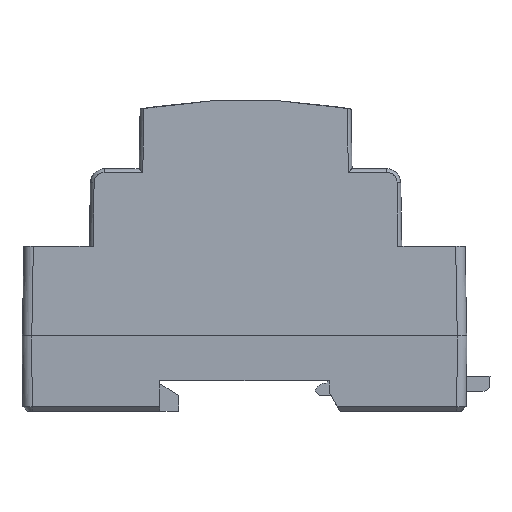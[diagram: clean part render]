
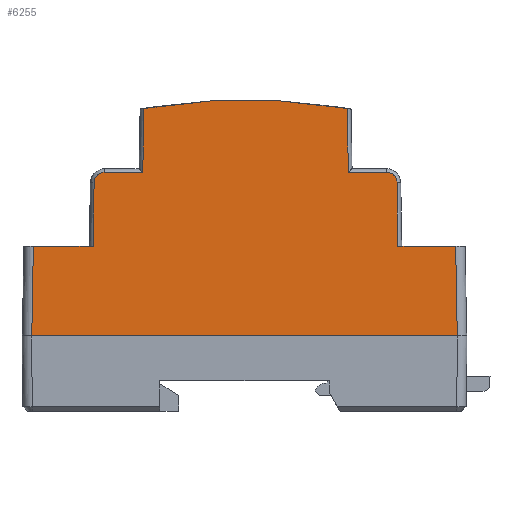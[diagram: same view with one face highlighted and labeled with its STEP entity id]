
A CAD part, left-side view. The second image highlights one B-rep face of the part: STEP entity #6255.
In plain terms, the highlighted planar face has unit normal (-1, 0, 0.015).
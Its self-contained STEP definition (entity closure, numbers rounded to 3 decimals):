
#458=ELLIPSE('',#24638,128.582,128.569);
#5100=B_SPLINE_CURVE_WITH_KNOTS('',3,(#45017,#45018,#45019,#45020,#45021,
#45022,#45023,#45024,#45025,#45026,#45027,#45028,#45029,#45030,#45031,#45032),
 .UNSPECIFIED.,.F.,.F.,(4,3,3,3,3,4),(0.,0.218,0.435,
0.655,0.868,1.),.UNSPECIFIED.);
#5103=B_SPLINE_CURVE_WITH_KNOTS('',3,(#45067,#45068,#45069,#45070,#45071,
#45072,#45073,#45074,#45075,#45076,#45077,#45078,#45079,#45080,#45081,#45082),
 .UNSPECIFIED.,.F.,.F.,(4,3,3,3,3,4),(0.,0.218,0.435,
0.655,0.868,1.),.UNSPECIFIED.);
#6255=ADVANCED_FACE('',(#7879),#6782,.F.);
#6782=PLANE('',#25449);
#7879=FACE_OUTER_BOUND('',#9155,.T.);
#9155=EDGE_LOOP('',(#15101,#15102,#15103,#15104,#15105,#15106,#15107,#15108,
#15109,#15110,#15111,#15112,#15113,#15114));
#15101=ORIENTED_EDGE('',*,*,#19141,.T.);
#15102=ORIENTED_EDGE('',*,*,#20079,.T.);
#15103=ORIENTED_EDGE('',*,*,#19082,.F.);
#15104=ORIENTED_EDGE('',*,*,#20080,.T.);
#15105=ORIENTED_EDGE('',*,*,#18610,.F.);
#15106=ORIENTED_EDGE('',*,*,#20048,.F.);
#15107=ORIENTED_EDGE('',*,*,#20060,.T.);
#15108=ORIENTED_EDGE('',*,*,#20046,.F.);
#15109=ORIENTED_EDGE('',*,*,#20044,.T.);
#15110=ORIENTED_EDGE('',*,*,#18532,.T.);
#15111=ORIENTED_EDGE('',*,*,#20055,.T.);
#15112=ORIENTED_EDGE('',*,*,#20052,.T.);
#15113=ORIENTED_EDGE('',*,*,#20056,.T.);
#15114=ORIENTED_EDGE('',*,*,#20050,.T.);
#16048=VERTEX_POINT('',#39607);
#16049=VERTEX_POINT('',#39609);
#16107=VERTEX_POINT('',#39855);
#16108=VERTEX_POINT('',#39856);
#16569=VERTEX_POINT('',#41556);
#16570=VERTEX_POINT('',#41557);
#16613=VERTEX_POINT('',#41693);
#16614=VERTEX_POINT('',#41695);
#17077=VERTEX_POINT('',#44994);
#17078=VERTEX_POINT('',#44998);
#17079=VERTEX_POINT('',#45002);
#17080=VERTEX_POINT('',#45006);
#17081=VERTEX_POINT('',#45010);
#17082=VERTEX_POINT('',#45011);
#18532=EDGE_CURVE('',#16049,#16048,#458,.T.);
#18610=EDGE_CURVE('',#16107,#16108,#20955,.T.);
#19082=EDGE_CURVE('',#16569,#16570,#21178,.T.);
#19141=EDGE_CURVE('',#16614,#16613,#21225,.T.);
#20044=EDGE_CURVE('',#17077,#16049,#21775,.T.);
#20046=EDGE_CURVE('',#17077,#17078,#21776,.T.);
#20048=EDGE_CURVE('',#17079,#16107,#21777,.T.);
#20050=EDGE_CURVE('',#17080,#16614,#21778,.T.);
#20052=EDGE_CURVE('',#17081,#17082,#21779,.T.);
#20055=EDGE_CURVE('',#16048,#17081,#21780,.T.);
#20056=EDGE_CURVE('',#17082,#17080,#5100,.T.);
#20060=EDGE_CURVE('',#17079,#17078,#5103,.T.);
#20079=EDGE_CURVE('',#16613,#16570,#21795,.T.);
#20080=EDGE_CURVE('',#16569,#16108,#21796,.T.);
#20955=LINE('',#39854,#22671);
#21178=LINE('',#41555,#22894);
#21225=LINE('',#41694,#22941);
#21775=LINE('',#44993,#23671);
#21776=LINE('',#44997,#23672);
#21777=LINE('',#45001,#23673);
#21778=LINE('',#45005,#23674);
#21779=LINE('',#45009,#23675);
#21780=LINE('',#45015,#23676);
#21795=LINE('',#45176,#23691);
#21796=LINE('',#45177,#23692);
#22671=VECTOR('',#28281,1.);
#22894=VECTOR('',#28800,1.);
#22941=VECTOR('',#28885,1.);
#23671=VECTOR('',#30705,1.);
#23672=VECTOR('',#30710,1.);
#23673=VECTOR('',#30715,1.);
#23674=VECTOR('',#30720,1.);
#23675=VECTOR('',#30725,1.);
#23676=VECTOR('',#30732,1.);
#23691=VECTOR('',#30863,1.);
#23692=VECTOR('',#30864,1.);
#24638=AXIS2_PLACEMENT_3D('',#39608,#28160,#28161);
#25449=AXIS2_PLACEMENT_3D('',#45178,#30865,#30866);
#28160=DIRECTION('',(-1.,0.,0.015));
#28161=DIRECTION('',(0.015,0.,1.));
#28281=DIRECTION('',(0.,-1.,0.));
#28800=DIRECTION('',(0.,1.,0.));
#28885=DIRECTION('',(0.,1.,0.));
#30705=DIRECTION('',(0.015,0.017,1.));
#30710=DIRECTION('',(0.,-1.,0.));
#30715=DIRECTION('',(-0.015,-0.014,-1.));
#30720=DIRECTION('',(-0.015,0.014,-1.));
#30725=DIRECTION('',(0.,1.,0.));
#30732=DIRECTION('',(-0.015,0.017,-1.));
#30863=DIRECTION('',(-0.015,0.017,-1.));
#30864=DIRECTION('',(0.015,0.017,1.));
#30865=DIRECTION('',(1.,0.,-0.015));
#30866=DIRECTION('',(-0.015,0.,-1.));
#39607=CARTESIAN_POINT('',(-34.021,31.86,120.52));
#39608=CARTESIAN_POINT('',(-35.875,10.285,-6.225));
#39609=CARTESIAN_POINT('',(-34.021,-11.294,120.519));
#39854=CARTESIAN_POINT('',(-34.449,10.283,91.24));
#39855=CARTESIAN_POINT('',(-34.449,-22.052,91.24));
#39856=CARTESIAN_POINT('',(-34.449,-34.311,91.24));
#41555=CARTESIAN_POINT('',(-34.727,-34.637,72.24));
#41556=CARTESIAN_POINT('',(-34.727,-34.642,72.24));
#41557=CARTESIAN_POINT('',(-34.727,55.653,72.24));
#41693=CARTESIAN_POINT('',(-34.449,55.322,91.24));
#41694=CARTESIAN_POINT('',(-34.449,10.283,91.24));
#41695=CARTESIAN_POINT('',(-34.449,42.618,91.24));
#44993=CARTESIAN_POINT('',(-34.201,-11.508,108.235));
#44994=CARTESIAN_POINT('',(-34.219,-11.531,106.963));
#44997=CARTESIAN_POINT('',(-34.219,10.783,106.963));
#44998=CARTESIAN_POINT('',(-34.219,-19.663,106.963));
#45001=CARTESIAN_POINT('',(-34.479,-22.08,89.25));
#45002=CARTESIAN_POINT('',(-34.251,-21.863,104.794));
#45005=CARTESIAN_POINT('',(-34.479,42.646,89.25));
#45006=CARTESIAN_POINT('',(-34.251,42.429,104.794));
#45009=CARTESIAN_POINT('',(-34.219,10.783,106.963));
#45010=CARTESIAN_POINT('',(-34.219,32.097,106.963));
#45011=CARTESIAN_POINT('',(-34.219,40.229,106.963));
#45015=CARTESIAN_POINT('',(-34.201,32.075,108.235));
#45017=CARTESIAN_POINT('',(-34.219,40.229,106.963));
#45018=CARTESIAN_POINT('',(-34.219,40.476,106.963));
#45019=CARTESIAN_POINT('',(-34.22,40.727,106.919));
#45020=CARTESIAN_POINT('',(-34.221,40.959,106.837));
#45021=CARTESIAN_POINT('',(-34.223,41.192,106.754));
#45022=CARTESIAN_POINT('',(-34.224,41.414,106.632));
#45023=CARTESIAN_POINT('',(-34.227,41.607,106.478));
#45024=CARTESIAN_POINT('',(-34.229,41.802,106.322));
#45025=CARTESIAN_POINT('',(-34.232,41.971,106.129));
#45026=CARTESIAN_POINT('',(-34.235,42.101,105.916));
#45027=CARTESIAN_POINT('',(-34.238,42.228,105.71));
#45028=CARTESIAN_POINT('',(-34.241,42.321,105.48));
#45029=CARTESIAN_POINT('',(-34.245,42.375,105.245));
#45030=CARTESIAN_POINT('',(-34.247,42.408,105.097));
#45031=CARTESIAN_POINT('',(-34.249,42.427,104.945));
#45032=CARTESIAN_POINT('',(-34.251,42.429,104.794));
#45067=CARTESIAN_POINT('',(-34.251,-21.863,104.794));
#45068=CARTESIAN_POINT('',(-34.248,-21.86,105.041));
#45069=CARTESIAN_POINT('',(-34.244,-21.812,105.291));
#45070=CARTESIAN_POINT('',(-34.241,-21.726,105.522));
#45071=CARTESIAN_POINT('',(-34.237,-21.641,105.754));
#45072=CARTESIAN_POINT('',(-34.234,-21.515,105.974));
#45073=CARTESIAN_POINT('',(-34.231,-21.358,106.165));
#45074=CARTESIAN_POINT('',(-34.228,-21.2,106.358));
#45075=CARTESIAN_POINT('',(-34.226,-21.004,106.524));
#45076=CARTESIAN_POINT('',(-34.224,-20.79,106.651));
#45077=CARTESIAN_POINT('',(-34.222,-20.582,106.775));
#45078=CARTESIAN_POINT('',(-34.221,-20.351,106.865));
#45079=CARTESIAN_POINT('',(-34.22,-20.114,106.915));
#45080=CARTESIAN_POINT('',(-34.22,-19.966,106.947));
#45081=CARTESIAN_POINT('',(-34.219,-19.814,106.963));
#45082=CARTESIAN_POINT('',(-34.219,-19.663,106.963));
#45176=CARTESIAN_POINT('',(-34.728,55.654,72.205));
#45177=CARTESIAN_POINT('',(-34.45,-34.311,91.205));
#45178=CARTESIAN_POINT('',(-34.318,9.432,100.24));
